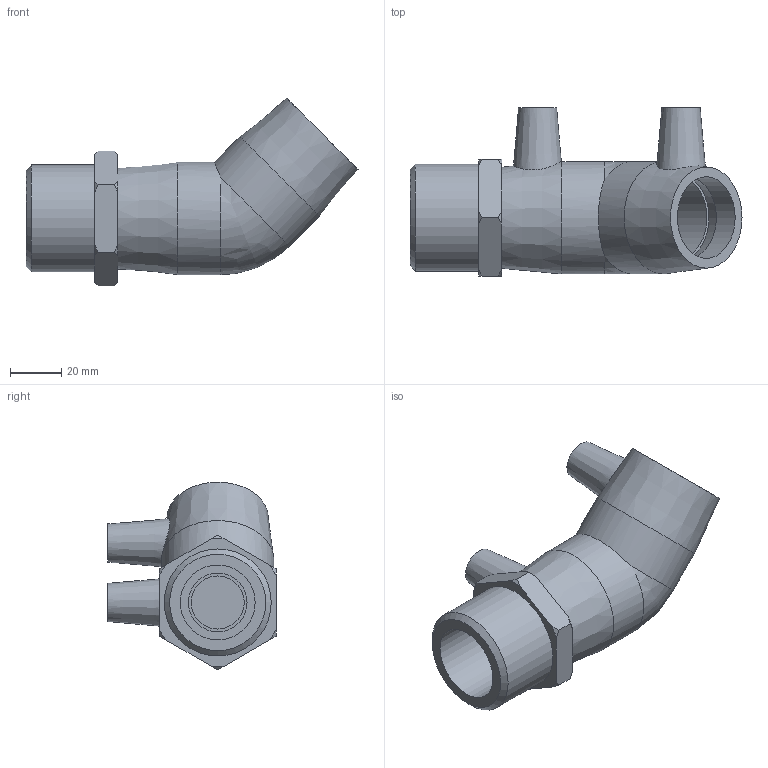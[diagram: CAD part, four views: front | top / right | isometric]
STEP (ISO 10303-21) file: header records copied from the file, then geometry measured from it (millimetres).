
FILE_DESCRIPTION(/* description */ ('PLASSON 45° ELBOW TRANSITION MALE 32-1.1/4"'),/* implementation_level */ '2;1');
FILE_NAME(/* name */ 'C:\Dropbox\KIMPROJECTS-Inventor\99-16-3568-Processing\ElectroFusion Fittings\02.02.20\492604\492604032013.ipt.stp',/* time_stamp */ '2020-02-02T12:19:53+02:00',/* author */ ('KIM'),/* organization */ (''),/* preprocessor_version */ 'ST-DEVELOPER v15.6',/* originating_system */ 'Autodesk Inventor 2015',/* authorisation */ '');
FILE_SCHEMA (('AUTOMOTIVE_DESIGN { 1 0 10303 214 3 1 1 }'));
Length unit declared in the file: millimetre
Products named in the file (1): 492604032013
Bounding box: 130 x 65.86 x 73.54 mm (x, y, z)
Volume: 123774.7 mm3; surface area: 36684.7 mm2
Topology: 1 solids, 2 shells, 59 faces, 133 edges, 88 vertices
Faces by surface type: plane 24, cone 19, cylinder 15, bspline 1
Full cylindrical faces by diameter (mm): 4 x2, 10 x2, 20.8 x2, 23 x1, 29.337 x1, 32 x4, 41.91 x1, 44 x2
Entity records: 1500 total; most frequent: CARTESIAN_POINT 369, DIRECTION 236, ORIENTED_EDGE 188, AXIS2_PLACEMENT_3D 109, EDGE_LOOP 97, EDGE_CURVE 94, VERTEX_POINT 75, FACE_OUTER_BOUND 59
